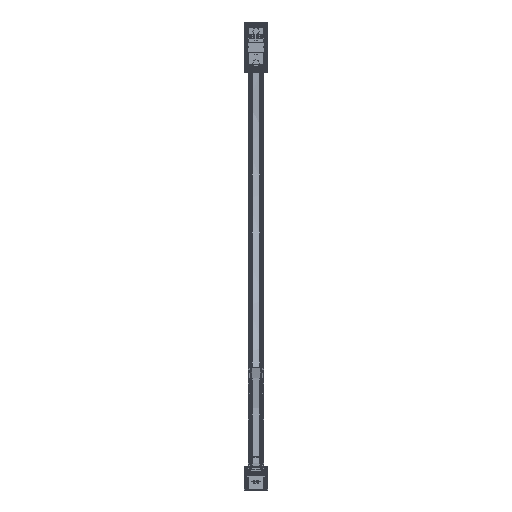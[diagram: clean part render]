
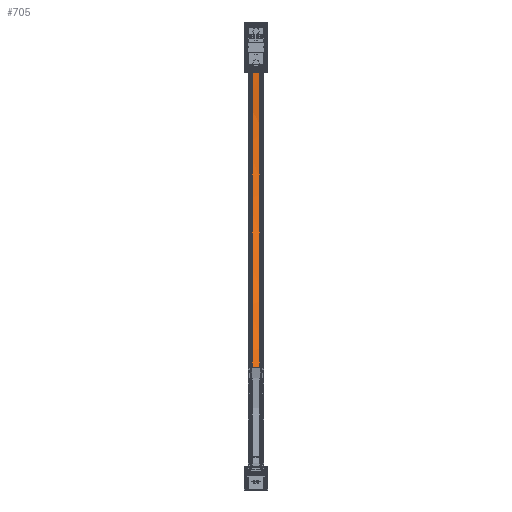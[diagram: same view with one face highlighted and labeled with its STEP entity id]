
A CAD part, front view. The second image highlights one B-rep face of the part: STEP entity #705.
In plain terms, the highlighted free-form (B-spline) face has degree [1, 2] with [2, 9] control points.
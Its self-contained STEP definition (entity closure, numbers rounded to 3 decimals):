
#705=ADVANCED_FACE('',(#1539),#12169,.T.);
#1539=FACE_OUTER_BOUND('',#2404,.T.);
#2404=EDGE_LOOP('',(#5314,#5315,#5316,#5317));
#5314=ORIENTED_EDGE('',*,*,#7939,.F.);
#5315=ORIENTED_EDGE('',*,*,#7940,.F.);
#5316=ORIENTED_EDGE('',*,*,#7941,.F.);
#5317=ORIENTED_EDGE('',*,*,#7938,.F.);
#7938=EDGE_CURVE('',#11264,#11265,#10134,.T.);
#7939=EDGE_CURVE('',#11266,#11264,#9112,.T.);
#7940=EDGE_CURVE('',#11267,#11266,#10135,.T.);
#7941=EDGE_CURVE('',#11265,#11267,#9113,.T.);
#9112=B_SPLINE_CURVE_WITH_KNOTS('',1,(#39445,#39446),.UNSPECIFIED.,.F.,
 .F.,(2,2),(-23.4,0.),.UNSPECIFIED.);
#9113=B_SPLINE_CURVE_WITH_KNOTS('',1,(#39450,#39451),.UNSPECIFIED.,.F.,
 .F.,(2,2),(-23.4,0.),.UNSPECIFIED.);
#10134=(
BOUNDED_CURVE()
B_SPLINE_CURVE(2,(#39442,#39443,#39444),.UNSPECIFIED.,.F.,.F.)
B_SPLINE_CURVE_WITH_KNOTS((3,3),(-950.,0.),.UNSPECIFIED.)
CURVE()
GEOMETRIC_REPRESENTATION_ITEM()
RATIONAL_B_SPLINE_CURVE((1.,0.707,1.))
REPRESENTATION_ITEM('')
);
#10135=(
BOUNDED_CURVE()
B_SPLINE_CURVE(2,(#39447,#39448,#39449),.UNSPECIFIED.,.F.,.F.)
B_SPLINE_CURVE_WITH_KNOTS((3,3),(-950.,0.),.UNSPECIFIED.)
CURVE()
GEOMETRIC_REPRESENTATION_ITEM()
RATIONAL_B_SPLINE_CURVE((1.,0.707,1.))
REPRESENTATION_ITEM('')
);
#11264=VERTEX_POINT('',#38579);
#11265=VERTEX_POINT('',#38580);
#11266=VERTEX_POINT('',#38581);
#11267=VERTEX_POINT('',#38582);
#12169=(
BOUNDED_SURFACE()
B_SPLINE_SURFACE(1,2,((#31462,#31463,#31464,#31465,#31466,#31467,#31468,
#31469,#31470),(#31471,#31472,#31473,#31474,#31475,#31476,#31477,#31478,
#31479)),.UNSPECIFIED.,.F.,.F.,.F.)
B_SPLINE_SURFACE_WITH_KNOTS((2,2),(3,2,2,2,3),(0.,28.08),(0.,950.,1900.,
2850.,3800.),.UNSPECIFIED.)
GEOMETRIC_REPRESENTATION_ITEM()
RATIONAL_B_SPLINE_SURFACE(((1.,0.707,1.,0.707,1.,
0.707,1.,0.707,1.),(1.,0.707,1.,0.707,
1.,0.707,1.,0.707,1.)))
REPRESENTATION_ITEM('')
SURFACE()
);
#31462=CARTESIAN_POINT('',(-14.04,674.224,1063.402));
#31463=CARTESIAN_POINT('',(-14.04,69.435,1063.402));
#31464=CARTESIAN_POINT('',(-14.04,69.435,458.614));
#31465=CARTESIAN_POINT('',(-14.04,69.435,-146.175));
#31466=CARTESIAN_POINT('',(-14.04,674.224,-146.175));
#31467=CARTESIAN_POINT('',(-14.04,1279.013,-146.175));
#31468=CARTESIAN_POINT('',(-14.04,1279.013,458.614));
#31469=CARTESIAN_POINT('',(-14.04,1279.013,1063.402));
#31470=CARTESIAN_POINT('',(-14.04,674.224,1063.402));
#31471=CARTESIAN_POINT('',(14.04,674.224,1063.402));
#31472=CARTESIAN_POINT('',(14.04,69.435,1063.402));
#31473=CARTESIAN_POINT('',(14.04,69.435,458.614));
#31474=CARTESIAN_POINT('',(14.04,69.435,-146.175));
#31475=CARTESIAN_POINT('',(14.04,674.224,-146.175));
#31476=CARTESIAN_POINT('',(14.04,1279.013,-146.175));
#31477=CARTESIAN_POINT('',(14.04,1279.013,458.614));
#31478=CARTESIAN_POINT('',(14.04,1279.013,1063.402));
#31479=CARTESIAN_POINT('',(14.04,674.224,1063.402));
#38579=CARTESIAN_POINT('',(11.7,1279.013,458.614));
#38580=CARTESIAN_POINT('',(11.7,674.224,-146.175));
#38581=CARTESIAN_POINT('',(-11.7,1279.013,458.614));
#38582=CARTESIAN_POINT('',(-11.7,674.224,-146.175));
#39442=CARTESIAN_POINT('',(11.7,1279.013,458.614));
#39443=CARTESIAN_POINT('',(11.7,1279.013,-146.175));
#39444=CARTESIAN_POINT('',(11.7,674.224,-146.175));
#39445=CARTESIAN_POINT('',(-11.7,1279.013,458.614));
#39446=CARTESIAN_POINT('',(11.7,1279.013,458.614));
#39447=CARTESIAN_POINT('',(-11.7,674.224,-146.175));
#39448=CARTESIAN_POINT('',(-11.7,1279.013,-146.175));
#39449=CARTESIAN_POINT('',(-11.7,1279.013,458.614));
#39450=CARTESIAN_POINT('',(11.7,674.224,-146.175));
#39451=CARTESIAN_POINT('',(-11.7,674.224,-146.175));
